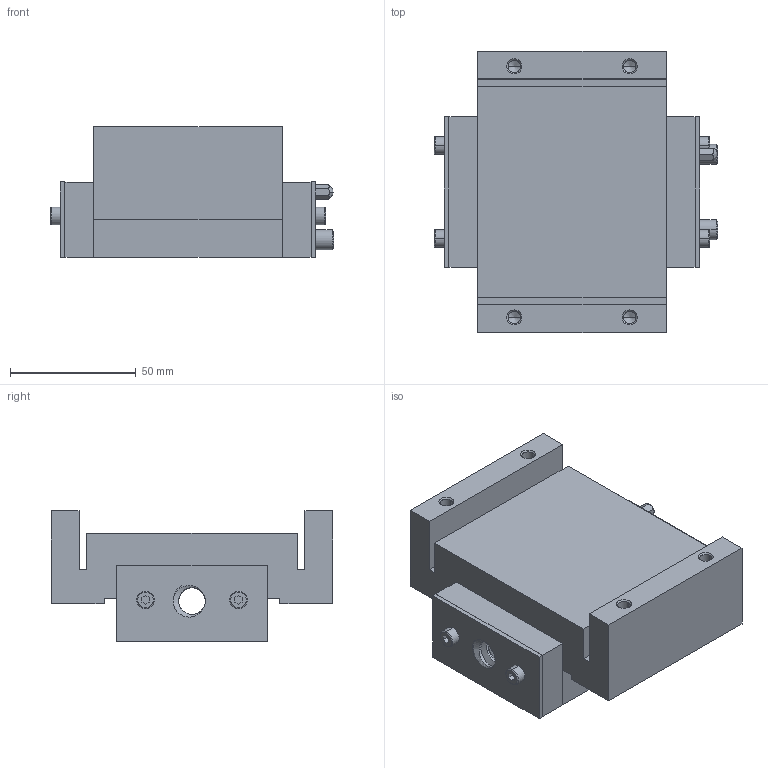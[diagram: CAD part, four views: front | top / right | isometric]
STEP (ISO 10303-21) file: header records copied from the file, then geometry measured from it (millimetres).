
FILE_DESCRIPTION (( 'STEP AP214' ), '1' );
FILE_NAME ('A1 BLOCK WITH COVER.STEP', '2021-03-08T22:56:25', ( '' ), ( '' ), 'SwSTEP 2.0', 'SolidWorks 2021', '' );
FILE_SCHEMA (( 'AUTOMOTIVE_DESIGN' ));
Length unit declared in the file: millimetre
Products named in the file (1): A1 BLOCK WITH COVER
Bounding box: 112.8 x 112 x 52 mm (x, y, z)
Surface area: 52248.7 mm2 (no closed solid volume)
Topology: 0 solids, 2 shells, 213 faces, 553 edges, 346 vertices
Faces by surface type: plane 82, cylinder 80, cone 36, torus 8, bspline 7
Entity records: 12701 total; most frequent: CARTESIAN_POINT 7874, ORIENTED_EDGE 1058, DIRECTION 917, EDGE_CURVE 533, VERTEX_POINT 346, VECTOR 307, LINE 307, AXIS2_PLACEMENT_3D 305
